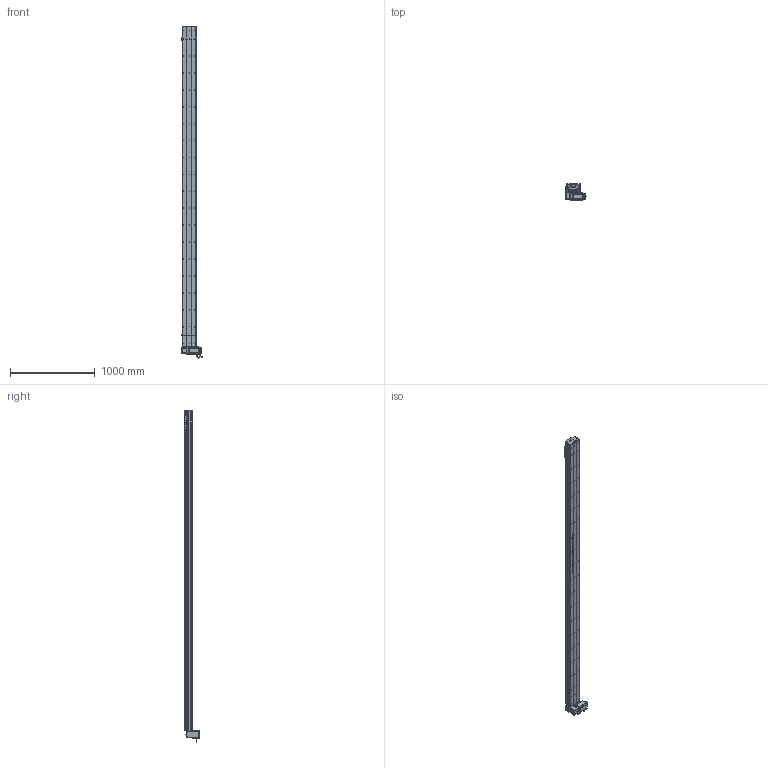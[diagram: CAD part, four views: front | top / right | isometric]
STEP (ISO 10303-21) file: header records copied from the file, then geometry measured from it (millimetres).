
FILE_DESCRIPTION (( 'STEP AP214' ), '1' );
FILE_NAME ('D17 TBH RU S3500.STEP', '2010-06-30T10:41:12', ( 'Christophe Gaillard' ), ( 'SGA' ), 'SwSTEP 2.0', 'SolidWorks 2010', '' );
FILE_SCHEMA (( 'AUTOMOTIVE_DESIGN' ));
Length unit declared in the file: millimetre
Products named in the file (40): Conecteur_Default; D17 TBH RU S3500; vis M5 L70_Default; Vis M5 L16-2_Default; codeur 90BLDC125-640; couvercle D17B head_Default; corps 90BLDC125A-640; avant 90BLDC125A-640; Moteur motionking 90BLDC125A-640; couroie head D17_Default; poulie head_Default; vis M5 L5_Default; cache D17_Default; Arbre+rail head D17B; plaque de  bout head D17B RU_Default; cache arbre D17_Default; Renvoi RU_Default; Tail D17B+100_Default; course 3500 D17B_Default; Chariot D17; couvercle D17B_Default; vis M5 L8 90°_Default; vis M5 L25_Default; chariot D17S_Default; Couroie tail D17B_Default; plaque de  bout tail D17B_Default; Plaque racord D17_Default; corp tail D17B+100_Default; tete d''axe poulie D17B; poulie tail_Default; vis M5 L16_Default; Couroie+ rail D17 Course 3500 ; Rail D17B; guide D17; Conecteur2_Default; corp D17B 3500_Default; couvercle D17B course L3500_Default; Head RU D17B_Default; corpl head D17 _Default; vis M5 L12_Default
Assembly tree (70 placements, depth 4):
  D17 TBH RU S3500
    course 3500 D17B_Default
      couvercle D17B course L3500_Default
      Couroie+ rail D17 Course 3500 
      corp D17B 3500_Default
    Head RU D17B_Default
      vis M5 L12_Default  x8
      couroie head D17_Default
      vis M5 L70_Default  x4
      vis M5 L25_Default  x2
      Vis M5 L16-2_Default  x4
      Plaque racord D17_Default
      vis M5 L5_Default  x4
      vis M5 L16_Default  x2
      plaque de  bout head D17B RU_Default
      cache D17_Default  x2
      poulie head_Default
      cache arbre D17_Default
      Moteur motionking 90BLDC125A-640
        corps 90BLDC125A-640
        Conecteur_Default
        avant 90BLDC125A-640
        Conecteur2_Default
        codeur 90BLDC125-640
      corpl head D17 _Default
      couvercle D17B head_Default
      Arbre+rail head D17B
      Renvoi RU_Default
    chariot D17S_Default
      vis M5 L12_Default  x4
      guide D17  x2
      Chariot D17
    Tail D17B+100_Default
      vis M5 L12_Default  x4
      vis M5 L8 90°_Default  x2
      Rail D17B
      vis M5 L25_Default  x2
      plaque de  bout tail D17B_Default
      poulie tail_Default
      Couroie tail D17B_Default
      corp tail D17B+100_Default
      couvercle D17B_Default
      tete d''axe poulie D17B
Bounding box: 245.2 x 188.65 x 3923.95 mm (x, y, z)
Volume: 22079863.6 mm3; surface area: 6465589.3 mm2
Topology: 94 solids, 94 shells, 2813 faces, 7235 edges, 4654 vertices
Faces by surface type: plane 1611, cylinder 889, bspline 136, cone 88, torus 85, sphere 4
Entity records: 89506 total; most frequent: CARTESIAN_POINT 26111, ORIENTED_EDGE 11242, DIRECTION 10630, EDGE_CURVE 5621, VERTEX_POINT 3678, VECTOR 3616, LINE 3616, AXIS2_PLACEMENT_3D 3507
